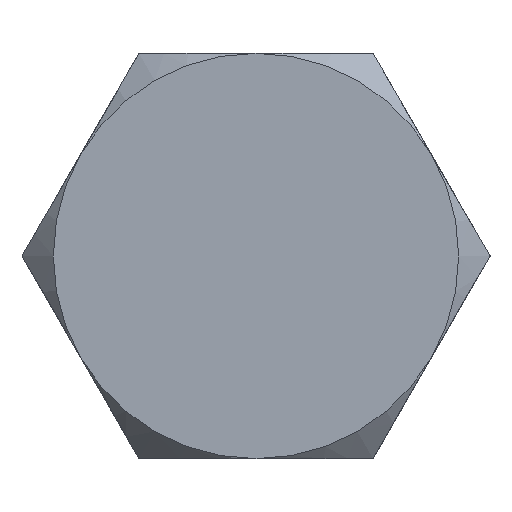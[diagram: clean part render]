
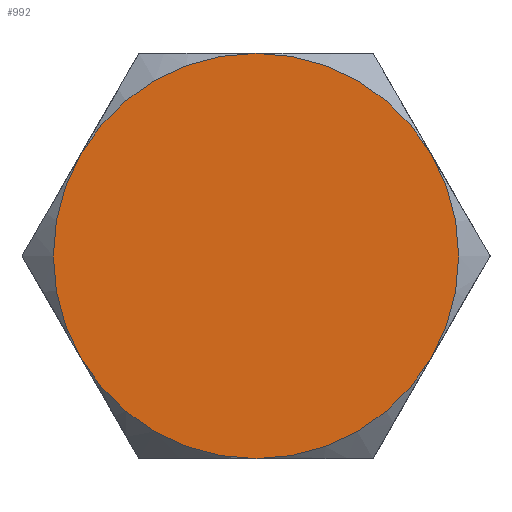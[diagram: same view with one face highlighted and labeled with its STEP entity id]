
A CAD part, front view. The second image highlights one B-rep face of the part: STEP entity #992.
In plain terms, the highlighted planar face has unit normal (0, -1, 0).
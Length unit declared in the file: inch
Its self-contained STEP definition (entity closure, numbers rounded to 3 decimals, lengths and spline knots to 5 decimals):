
#67=PLANE('',#1142);
#152=FACE_OUTER_BOUND('',#216,.T.);
#216=EDGE_LOOP('',(#851,#852,#853,#854,#855,#856));
#355=CIRCLE('',#1119,0.75);
#357=CIRCLE('',#1122,0.75);
#359=CIRCLE('',#1125,0.75);
#361=CIRCLE('',#1128,0.75);
#363=CIRCLE('',#1131,0.75);
#366=CIRCLE('',#1140,0.75);
#434=VERTEX_POINT('',#1742);
#439=VERTEX_POINT('',#1762);
#444=VERTEX_POINT('',#1782);
#449=VERTEX_POINT('',#1802);
#454=VERTEX_POINT('',#1822);
#459=VERTEX_POINT('',#1842);
#589=EDGE_CURVE('',#454,#459,#355,.T.);
#591=EDGE_CURVE('',#449,#454,#357,.T.);
#593=EDGE_CURVE('',#444,#449,#359,.T.);
#595=EDGE_CURVE('',#439,#444,#361,.T.);
#597=EDGE_CURVE('',#434,#439,#363,.T.);
#600=EDGE_CURVE('',#459,#434,#366,.T.);
#851=ORIENTED_EDGE('',*,*,#600,.F.);
#852=ORIENTED_EDGE('',*,*,#589,.F.);
#853=ORIENTED_EDGE('',*,*,#591,.F.);
#854=ORIENTED_EDGE('',*,*,#593,.F.);
#855=ORIENTED_EDGE('',*,*,#595,.F.);
#856=ORIENTED_EDGE('',*,*,#597,.F.);
#992=ADVANCED_FACE('',(#152),#67,.T.);
#1119=AXIS2_PLACEMENT_3D('',#1874,#1361,#1362);
#1122=AXIS2_PLACEMENT_3D('',#1877,#1367,#1368);
#1125=AXIS2_PLACEMENT_3D('',#1880,#1373,#1374);
#1128=AXIS2_PLACEMENT_3D('',#1883,#1379,#1380);
#1131=AXIS2_PLACEMENT_3D('',#1886,#1385,#1386);
#1140=AXIS2_PLACEMENT_3D('',#1895,#1403,#1404);
#1142=AXIS2_PLACEMENT_3D('',#1897,#1407,#1408);
#1361=DIRECTION('center_axis',(0.,1.,0.));
#1362=DIRECTION('ref_axis',(0.,0.,1.));
#1367=DIRECTION('center_axis',(0.,1.,0.));
#1368=DIRECTION('ref_axis',(0.,0.,1.));
#1373=DIRECTION('center_axis',(0.,1.,0.));
#1374=DIRECTION('ref_axis',(0.,0.,1.));
#1379=DIRECTION('center_axis',(0.,1.,0.));
#1380=DIRECTION('ref_axis',(0.,0.,1.));
#1385=DIRECTION('center_axis',(0.,1.,0.));
#1386=DIRECTION('ref_axis',(0.,0.,1.));
#1403=DIRECTION('center_axis',(0.,1.,0.));
#1404=DIRECTION('ref_axis',(0.,0.,1.));
#1407=DIRECTION('center_axis',(0.,-1.,0.));
#1408=DIRECTION('ref_axis',(0.,0.,-1.));
#1742=CARTESIAN_POINT('',(-0.64952,0.,-0.375));
#1762=CARTESIAN_POINT('',(-0.64952,0.,0.375));
#1782=CARTESIAN_POINT('',(0.,0.,0.75));
#1802=CARTESIAN_POINT('',(0.64952,0.,0.375));
#1822=CARTESIAN_POINT('',(0.64952,0.,-0.375));
#1842=CARTESIAN_POINT('',(0.,0.,-0.75));
#1874=CARTESIAN_POINT('Origin',(0.,0.,0.));
#1877=CARTESIAN_POINT('Origin',(0.,0.,0.));
#1880=CARTESIAN_POINT('Origin',(0.,0.,0.));
#1883=CARTESIAN_POINT('Origin',(0.,0.,0.));
#1886=CARTESIAN_POINT('Origin',(0.,0.,0.));
#1895=CARTESIAN_POINT('Origin',(0.,0.,0.));
#1897=CARTESIAN_POINT('Origin',(0.,0.,0.));
